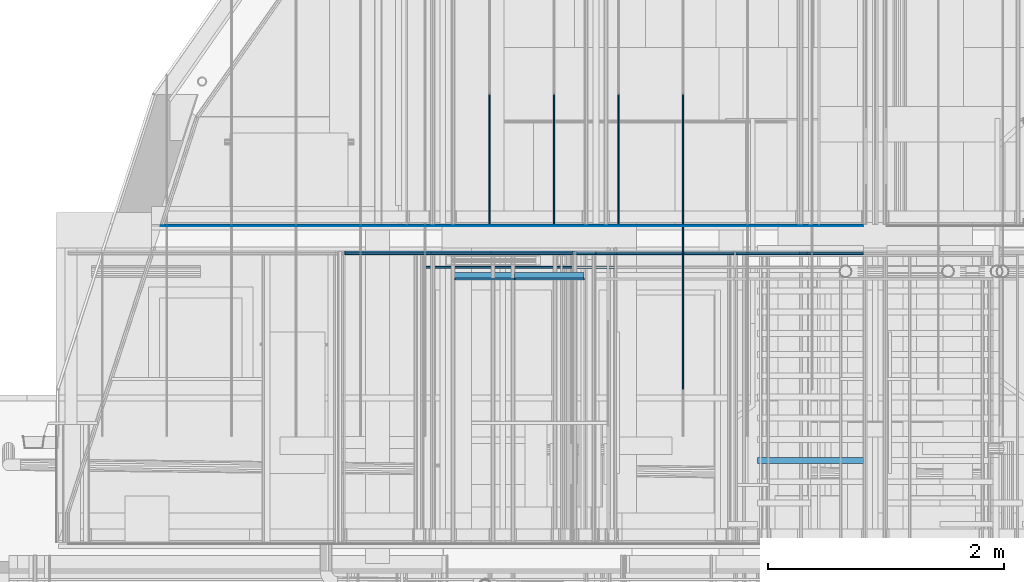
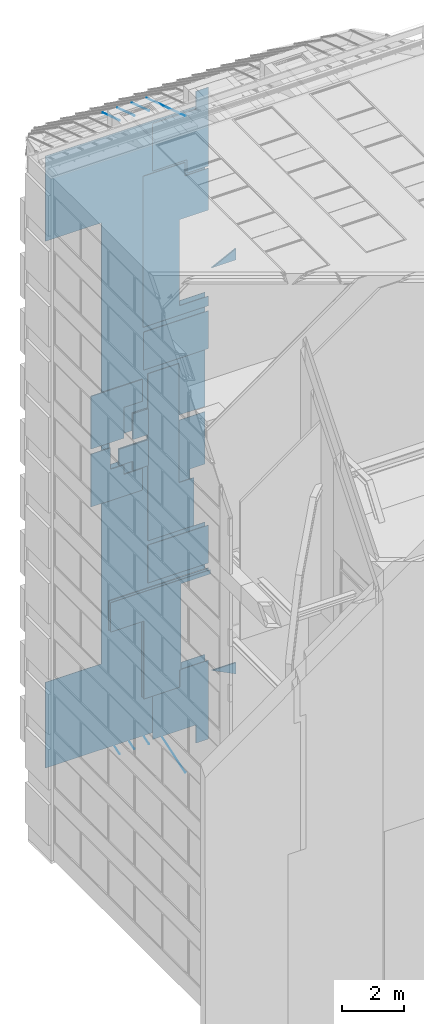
# One storey, part 267 of 583: 31 slabs.
"""IFC2X3 building model written with IfcOpenShell, lengths in metres."""

from ifc_helpers import new_model, entity, si_unit, converted_unit, derived_unit, money_unit, direction, frame, origin_with_axes, place, context, subcontext, project, spatial, faceted_brep, material, type_object, element, save


model = new_model("IFC2X3")

# Units and contexts
model_context = context("Model", 3, precision=1e-05, world=origin_with_axes(), true_north=direction((0.0, 1.0)))
body_context = subcontext(model_context, "Body", "Model", "MODEL_VIEW", scale=1.0)
ifc_project = project(units=[si_unit("LENGTHUNIT", "METRE"), si_unit("AREAUNIT", "SQUARE_METRE"), si_unit("VOLUMEUNIT", "CUBIC_METRE"), si_unit("ABSORBEDDOSEUNIT", "GRAY"), si_unit("AMOUNTOFSUBSTANCEUNIT", "MOLE"), si_unit("DOSEEQUIVALENTUNIT", "SIEVERT"), si_unit("ELECTRICCAPACITANCEUNIT", "FARAD"), si_unit("ELECTRICCHARGEUNIT", "COULOMB"), si_unit("ELECTRICCONDUCTANCEUNIT", "SIEMENS"), si_unit("ELECTRICCURRENTUNIT", "AMPERE"), si_unit("ELECTRICRESISTANCEUNIT", "OHM"), si_unit("ELECTRICVOLTAGEUNIT", "VOLT"), si_unit("ENERGYUNIT", "JOULE"), si_unit("FORCEUNIT", "NEWTON"), si_unit("FREQUENCYUNIT", "HERTZ"), si_unit("ILLUMINANCEUNIT", "LUX"), si_unit("INDUCTANCEUNIT", "HENRY"), si_unit("LUMINOUSFLUXUNIT", "LUMEN"), si_unit("LUMINOUSINTENSITYUNIT", "CANDELA"), si_unit("MAGNETICFLUXDENSITYUNIT", "TESLA"), si_unit("MAGNETICFLUXUNIT", "WEBER"), si_unit("MASSUNIT", "GRAM"), converted_unit("PLANEANGLEUNIT", "degree", entity("IfcReal", 0.0174532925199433), si_unit("PLANEANGLEUNIT", "RADIAN"), dimensions=[0, 0, 0, 0, 0, 0, 0]), si_unit("POWERUNIT", "WATT"), si_unit("PRESSUREUNIT", "PASCAL"), si_unit("RADIOACTIVITYUNIT", "BECQUEREL"), si_unit("SOLIDANGLEUNIT", "STERADIAN"), si_unit("THERMODYNAMICTEMPERATUREUNIT", "KELVIN"), si_unit("TIMEUNIT", "SECOND"), derived_unit("ACCELERATIONUNIT", [(si_unit("LENGTHUNIT", "METRE"), 1), (si_unit("TIMEUNIT", "SECOND"), -2)]), derived_unit("ANGULARVELOCITYUNIT", [(converted_unit("PLANEANGLEUNIT", "degree", entity("IfcReal", 0.0174532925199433), si_unit("PLANEANGLEUNIT", "RADIAN"), dimensions=[0, 0, 0, 0, 0, 0, 0]), 1), (si_unit("TIMEUNIT", "SECOND"), -1)]), derived_unit("CURVATUREUNIT", [(converted_unit("PLANEANGLEUNIT", "degree", entity("IfcReal", 0.0174532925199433), si_unit("PLANEANGLEUNIT", "RADIAN"), dimensions=[0, 0, 0, 0, 0, 0, 0]), 1), (si_unit("LENGTHUNIT", "METRE"), -1)]), derived_unit("DYNAMICVISCOSITYUNIT", [(si_unit("PRESSUREUNIT", "PASCAL"), 1), (si_unit("TIMEUNIT", "SECOND"), 1)]), derived_unit("HEATFLUXDENSITYUNIT", [(si_unit("POWERUNIT", "WATT"), 1), (si_unit("LENGTHUNIT", "METRE"), -2)]), derived_unit("HEATINGVALUEUNIT", [(si_unit("ENERGYUNIT", "JOULE"), 1), (si_unit("MASSUNIT", "GRAM"), -1)]), derived_unit("INTEGERCOUNTRATEUNIT", [(si_unit("TIMEUNIT", "SECOND"), -1)]), derived_unit("IONCONCENTRATIONUNIT", [(si_unit("MASSUNIT", "GRAM"), 1), (si_unit("VOLUMEUNIT", "CUBIC_METRE"), -1)]), derived_unit("ISOTHERMALMOISTURECAPACITYUNIT", [(si_unit("VOLUMEUNIT", "CUBIC_METRE"), 1), (si_unit("MASSUNIT", "GRAM"), -1)]), derived_unit("KINEMATICVISCOSITYUNIT", [(si_unit("AREAUNIT", "SQUARE_METRE"), 1), (si_unit("TIMEUNIT", "SECOND"), -1)]), derived_unit("LINEARFORCEUNIT", [(si_unit("FORCEUNIT", "NEWTON"), 1), (si_unit("LENGTHUNIT", "METRE"), -1)]), derived_unit("LINEARMOMENTUNIT", [(si_unit("FORCEUNIT", "NEWTON"), 1), (si_unit("LENGTHUNIT", "METRE"), -1)]), derived_unit("LINEARSTIFFNESSUNIT", [(si_unit("FORCEUNIT", "NEWTON"), 1), (si_unit("LENGTHUNIT", "METRE"), -1)]), derived_unit("LINEARVELOCITYUNIT", [(si_unit("LENGTHUNIT", "METRE"), 1), (si_unit("TIMEUNIT", "SECOND"), -1)]), derived_unit("LUMINOUSINTENSITYDISTRIBUTIONUNIT", [(si_unit("LUMINOUSINTENSITYUNIT", "CANDELA"), 1), (si_unit("LUMINOUSFLUXUNIT", "LUMEN"), -1)]), derived_unit("MASSDENSITYUNIT", [(si_unit("MASSUNIT", "GRAM"), 1), (si_unit("VOLUMEUNIT", "CUBIC_METRE"), -1)]), derived_unit("MASSFLOWRATEUNIT", [(si_unit("MASSUNIT", "GRAM"), 1), (si_unit("TIMEUNIT", "SECOND"), -1)]), derived_unit("MASSPERLENGTHUNIT", [(si_unit("MASSUNIT", "GRAM"), 1), (si_unit("LENGTHUNIT", "METRE"), -1)]), derived_unit("MODULUSOFELASTICITYUNIT", [(si_unit("FORCEUNIT", "NEWTON"), 1), (si_unit("AREAUNIT", "SQUARE_METRE"), -1)]), derived_unit("MODULUSOFLINEARSUBGRADEREACTIONUNIT", [(si_unit("FORCEUNIT", "NEWTON"), 1), (si_unit("LENGTHUNIT", "METRE"), -2)]), derived_unit("MODULUSOFROTATIONALSUBGRADEREACTIONUNIT", [(si_unit("FORCEUNIT", "NEWTON"), 1), (si_unit("LENGTHUNIT", "METRE"), 1)]), derived_unit("MODULUSOFSUBGRADEREACTIONUNIT", [(si_unit("FORCEUNIT", "NEWTON"), 1), (si_unit("VOLUMEUNIT", "CUBIC_METRE"), -1)]), derived_unit("MOISTUREDIFFUSIVITYUNIT", [(si_unit("VOLUMEUNIT", "CUBIC_METRE"), 1), (si_unit("TIMEUNIT", "SECOND"), -1)]), derived_unit("MOLECULARWEIGHTUNIT", [(si_unit("MASSUNIT", "GRAM"), 1), (si_unit("AMOUNTOFSUBSTANCEUNIT", "MOLE"), -1)]), derived_unit("PLANARFORCEUNIT", [(si_unit("FORCEUNIT", "NEWTON"), 1), (si_unit("LENGTHUNIT", "METRE"), -2)]), derived_unit("ROTATIONALFREQUENCYUNIT", [(si_unit("TIMEUNIT", "SECOND"), -1)]), derived_unit("ROTATIONALMASSUNIT", [(si_unit("MASSUNIT", "GRAM"), 1), (si_unit("LENGTHUNIT", "METRE"), 2)]), derived_unit("ROTATIONALSTIFFNESSUNIT", [(si_unit("FORCEUNIT", "NEWTON"), 1), (si_unit("LENGTHUNIT", "METRE"), 1), (converted_unit("PLANEANGLEUNIT", "degree", entity("IfcReal", 0.0174532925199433), si_unit("PLANEANGLEUNIT", "RADIAN"), dimensions=[0, 0, 0, 0, 0, 0, 0]), -1)]), derived_unit("SECTIONAREAINTEGRALUNIT", [(si_unit("LENGTHUNIT", "METRE"), 5)]), derived_unit("SECTIONMODULUSUNIT", [(si_unit("LENGTHUNIT", "METRE"), 3)]), derived_unit("SHEARMODULUSUNIT", [(si_unit("FORCEUNIT", "NEWTON"), 1), (si_unit("AREAUNIT", "SQUARE_METRE"), -1)]), derived_unit("SOUNDPOWERUNIT", [(si_unit("ENERGYUNIT", "JOULE"), 1), (si_unit("TIMEUNIT", "SECOND"), -1)]), derived_unit("SPECIFICHEATCAPACITYUNIT", [(si_unit("FORCEUNIT", "NEWTON"), 1), (si_unit("MASSUNIT", "GRAM"), -1), (si_unit("THERMODYNAMICTEMPERATUREUNIT", "KELVIN"), -1)]), derived_unit("TEMPERATUREGRADIENTUNIT", [(si_unit("THERMODYNAMICTEMPERATUREUNIT", "KELVIN"), 1), (si_unit("LENGTHUNIT", "METRE"), -1)]), derived_unit("THERMALADMITTANCEUNIT", [(si_unit("POWERUNIT", "WATT"), 1), (si_unit("AREAUNIT", "SQUARE_METRE"), -1), (si_unit("THERMODYNAMICTEMPERATUREUNIT", "KELVIN"), -1)]), derived_unit("THERMALCONDUCTANCEUNIT", [(si_unit("POWERUNIT", "WATT"), 1), (si_unit("LENGTHUNIT", "METRE"), -1), (si_unit("THERMODYNAMICTEMPERATUREUNIT", "KELVIN"), -1)]), derived_unit("THERMALEXPANSIONCOEFFICIENTUNIT", [(si_unit("THERMODYNAMICTEMPERATUREUNIT", "KELVIN"), -1)]), derived_unit("THERMALRESISTANCEUNIT", [(si_unit("AREAUNIT", "SQUARE_METRE"), 1), (si_unit("POWERUNIT", "WATT"), -1)]), derived_unit("THERMALTRANSMITTANCEUNIT", [(si_unit("POWERUNIT", "WATT"), 1), (si_unit("AREAUNIT", "SQUARE_METRE"), -1), (si_unit("THERMODYNAMICTEMPERATUREUNIT", "KELVIN"), -1)]), derived_unit("TORQUEUNIT", [(si_unit("FORCEUNIT", "NEWTON"), 1), (si_unit("LENGTHUNIT", "METRE"), 1)]), derived_unit("VAPORPERMEABILITYUNIT", [(si_unit("MASSUNIT", "GRAM"), 1), (si_unit("TIMEUNIT", "SECOND"), -1)]), derived_unit("VOLUMETRICFLOWRATEUNIT", [(si_unit("VOLUMEUNIT", "CUBIC_METRE"), 1), (si_unit("TIMEUNIT", "SECOND"), -1)]), derived_unit("WARPINGCONSTANTUNIT", [(si_unit("LENGTHUNIT", "METRE"), 6)]), derived_unit("WARPINGMOMENTUNIT", [(si_unit("FORCEUNIT", "NEWTON"), 1), (si_unit("LENGTHUNIT", "METRE"), 2)]), money_unit("GBP")], contexts=[model_context])

# Site, building, storey
site_placement = place(None, origin_with_axes())
site = spatial("IfcSite", under=ifc_project, at=site_placement, Name="Site", CompositionType="ELEMENT")
building_placement = place(site_placement, origin_with_axes())
building = spatial("IfcBuilding", under=site, at=building_placement, Name="Building01", CompositionType="ELEMENT")
storey_placement = place(building_placement, frame((0.0, 0.0, 20.78), z_axis=(0.0, 0.0, 1.0), x_axis=(1.0, 0.0, 0.0)))
storey = spatial("IfcBuildingStorey", under=building, at=storey_placement, Name="RL", CompositionType="ELEMENT", Elevation=20.78)

# Slabs
ifc_material_1 = material(Name="A_BSUK_CeilingSoffitFinishes_Suspended")
slab_type_1 = type_object("IfcSlabType", Name="A-FloorsSlabs A_BSUK_Slabs", PredefinedType="FLOOR")
placement = place(storey_placement, frame((0.0, 0.0, -20.78), z_axis=(0.0, 0.0, 1.0), x_axis=(1.0, 0.0, 0.0)))
element("IfcSlab", 1, at=placement, inside=storey, type_object=slab_type_1, material=ifc_material_1, Name="A-FloorsSlabs A_BSUK_Slabs", ObjectType="CompoundSlabLeaf", context=body_context, shape_type="Brep", body=[
    faceted_brep([(7.284939, 17.423, 3.715111), (7.284939, 17.438, 3.715111), (6.279939, 17.438, 3.715111), (6.279939, 17.423, 3.715111), (7.349939, 17.423, 3.715111), (7.349939, 17.438, 3.715111), (7.349939, 17.423, 0.599939), (7.349939, 17.438, 0.599939), (6.874964, 17.423, 0.599939), (6.874964, 17.438, 0.599939), (6.874964, 17.423, 1.312402), (6.874964, 17.438, 1.312402), (5.254976, 17.423, 1.312402), (5.254976, 17.438, 1.312402), (5.254976, 17.423, 3.039976), (5.254976, 17.438, 3.039976), (6.279939, 17.423, 3.039976), (6.279939, 17.438, 3.039976)], [[[0, 1, 2, 3]], [[4, 5, 1, 0]], [[6, 7, 5, 4]], [[8, 9, 7, 6]], [[10, 11, 9, 8]], [[12, 13, 11, 10]], [[14, 15, 13, 12]], [[16, 17, 15, 14]], [[3, 2, 17, 16]], [[1, 5, 7, 9, 11, 13, 15, 17, 2]], [[3, 16, 14, 12, 10, 8, 6, 4, 0]]]),
])
element("IfcSlab", 2, at=placement, inside=storey, type_object=slab_type_1, material=ifc_material_1, Name="A-FloorsSlabs A_BSUK_Slabs", ObjectType="CompoundSlabLeaf", context=body_context, shape_type="Brep", body=[
    faceted_brep([(4.859939, 17.423, 3.119976), (4.859939, 17.438, 3.119976), (6.199939, 17.438, 3.119976), (6.199939, 17.423, 3.119976), (4.859939, 17.423, 6.200098), (4.859939, 17.438, 6.200098), (3.619939, 17.423, 6.200098), (3.619939, 17.438, 6.200098), (3.619939, 17.423, 7.36), (3.619939, 17.438, 7.36), (7.349939, 17.423, 7.36), (7.349939, 17.438, 7.36), (7.349939, 17.423, 7.195111), (7.349939, 17.438, 7.195111), (6.252627, 17.423, 7.195111), (6.252627, 17.438, 7.195111), (6.252627, 17.423, 3.915111), (6.252627, 17.438, 3.915111), (6.252627, 17.423, 3.795111), (6.252627, 17.438, 3.795111), (6.199939, 17.423, 3.795111), (6.199939, 17.438, 3.795111)], [[[0, 1, 2, 3]], [[4, 5, 1, 0]], [[6, 7, 5, 4]], [[8, 9, 7, 6]], [[10, 11, 9, 8]], [[12, 13, 11, 10]], [[14, 15, 13, 12]], [[16, 17, 15, 14]], [[18, 19, 17, 16]], [[20, 21, 19, 18]], [[3, 2, 21, 20]], [[1, 5, 7, 9, 11, 13, 15, 17, 19, 21, 2]], [[3, 20, 18, 16, 14, 12, 10, 8, 6, 4, 0]]]),
])
element("IfcSlab", 3, at=placement, inside=storey, type_object=slab_type_1, material=ifc_material_1, Name="A-FloorsSlabs A_BSUK_Slabs", ObjectType="CompoundSlabLeaf", context=body_context, shape_type="Brep", body=[
    faceted_brep([(5.08, 17.423, 7.56), (5.08, 17.438, 7.56), (7.349939, 17.438, 7.56), (7.349939, 17.423, 7.56), (5.08, 17.423, 9.06), (5.08, 17.438, 9.06), (7.349939, 17.423, 9.06), (7.349939, 17.438, 9.06)], [[[0, 1, 2, 3]], [[4, 5, 1, 0]], [[6, 7, 5, 4]], [[3, 2, 7, 6]], [[1, 5, 7, 2]], [[3, 6, 4, 0]]]),
])
element("IfcSlab", 4, at=placement, inside=storey, type_object=slab_type_1, material=ifc_material_1, Name="A-FloorsSlabs A_BSUK_Slabs", ObjectType="CompoundSlabLeaf", context=body_context, shape_type="Brep", body=[
    faceted_brep([(7.349915, 17.423, 16.03844), (7.349915, 17.438, 16.03844), (7.349915, 17.438, 17.53844), (7.349915, 17.423, 17.53844), (4.917, 17.423, 16.03844), (4.917, 17.438, 16.03844), (4.917, 17.423, 17.53844), (4.917, 17.438, 17.53844)], [[[0, 1, 2, 3]], [[4, 5, 1, 0]], [[6, 7, 5, 4]], [[3, 2, 7, 6]], [[1, 5, 7, 2]], [[3, 6, 4, 0]]]),
])
element("IfcSlab", 5, at=placement, inside=storey, type_object=slab_type_1, material=ifc_material_1, Name="A-FloorsSlabs A_BSUK_Slabs", ObjectType="CompoundSlabLeaf", context=body_context, shape_type="Brep", body=[
    faceted_brep([(7.349915, 17.423, 17.73844), (7.349915, 17.438, 17.73844), (7.349915, 17.438, 18.11844), (7.349915, 17.423, 18.11844), (4.897, 17.423, 17.73844), (4.897, 17.438, 17.73844), (4.897, 17.423, 23.71), (4.897, 17.438, 23.71), (6.470085, 17.423, 23.71), (6.470085, 17.438, 23.71), (6.470085, 17.423, 23.178821), (6.470085, 17.438, 23.178821), (7.349915, 17.423, 23.178821), (7.349915, 17.438, 23.178821), (7.349915, 17.423, 21.51844), (7.349915, 17.438, 21.51844), (6.252627, 17.423, 21.51844), (6.252627, 17.438, 21.51844), (6.252627, 17.423, 18.11844), (6.252627, 17.438, 18.11844)], [[[0, 1, 2, 3]], [[4, 5, 1, 0]], [[6, 7, 5, 4]], [[8, 9, 7, 6]], [[10, 11, 9, 8]], [[12, 13, 11, 10]], [[14, 15, 13, 12]], [[16, 17, 15, 14]], [[18, 19, 17, 16]], [[3, 2, 19, 18]], [[1, 5, 7, 9, 11, 13, 15, 17, 19, 2]], [[3, 18, 16, 14, 12, 10, 8, 6, 4, 0]]]),
])
element("IfcSlab", 6, at=placement, inside=storey, type_object=slab_type_1, material=ifc_material_1, Name="A-FloorsSlabs A_BSUK_Slabs", ObjectType="CompoundSlabLeaf", context=body_context, shape_type="Brep", body=[
    faceted_brep([(7.349915, 17.423, 23.258821), (7.349915, 17.438, 23.258821), (7.349915, 17.438, 26.380061), (7.349915, 17.423, 26.380061), (6.550085, 17.423, 23.258821), (6.550085, 17.438, 23.258821), (6.550085, 17.423, 23.79), (6.550085, 17.438, 23.79), (5.254915, 17.423, 23.79), (5.254915, 17.438, 23.79), (5.254915, 17.423, 25.667598), (5.254915, 17.438, 25.667598), (6.874964, 17.423, 25.667598), (6.874964, 17.438, 25.667598), (6.874964, 17.423, 26.380061), (6.874964, 17.438, 26.380061)], [[[0, 1, 2, 3]], [[4, 5, 1, 0]], [[6, 7, 5, 4]], [[8, 9, 7, 6]], [[10, 11, 9, 8]], [[12, 13, 11, 10]], [[14, 15, 13, 12]], [[3, 2, 15, 14]], [[1, 5, 7, 9, 11, 13, 15, 2]], [[3, 14, 12, 10, 8, 6, 4, 0]]]),
])
element("IfcSlab", 7, at=placement, inside=storey, type_object=slab_type_1, material=ifc_material_1, Name="A-FloorsSlabs A_BSUK_Slabs", ObjectType="CompoundSlabLeaf", context=body_context, shape_type="Brep", body=[
    faceted_brep([(5.08, 17.423, 9.23), (5.08, 17.438, 9.23), (6.807, 17.438, 9.23), (6.807, 17.423, 9.23), (5.08, 17.423, 15.83844), (5.08, 17.438, 15.83844), (6.25, 17.423, 15.83844), (6.25, 17.438, 15.83844), (6.25, 17.423, 11.13), (6.25, 17.438, 11.13), (6.807, 17.423, 11.13), (6.807, 17.438, 11.13)], [[[0, 1, 2, 3]], [[4, 5, 1, 0]], [[6, 7, 5, 4]], [[8, 9, 7, 6]], [[10, 11, 9, 8]], [[3, 2, 11, 10]], [[1, 5, 7, 9, 11, 2]], [[3, 10, 8, 6, 4, 0]]]),
])
element("IfcSlab", 8, at=placement, inside=storey, type_object=slab_type_1, material=ifc_material_1, Name="A-FloorsSlabs A_BSUK_Slabs", ObjectType="CompoundSlabLeaf", context=body_context, shape_type="Brep", body=[
    faceted_brep([(2.949761, 17.423, 13.4), (2.949761, 17.438, 13.4), (2.949761, 17.438, 11.31), (2.949761, 17.423, 11.31), (3.68, 17.423, 13.4), (3.68, 17.438, 13.4), (3.68, 17.423, 12.55), (3.68, 17.438, 12.55), (4.189428, 17.423, 12.55), (4.189428, 17.438, 12.55), (4.189428, 17.423, 12.175), (4.189428, 17.438, 12.175), (4.88, 17.423, 12.175), (4.88, 17.438, 12.175), (4.88, 17.423, 11.31), (4.88, 17.438, 11.31)], [[[0, 1, 2, 3]], [[4, 5, 1, 0]], [[6, 7, 5, 4]], [[8, 9, 7, 6]], [[10, 11, 9, 8]], [[12, 13, 11, 10]], [[14, 15, 13, 12]], [[3, 2, 15, 14]], [[1, 5, 7, 9, 11, 13, 15, 2]], [[3, 14, 12, 10, 8, 6, 4, 0]]]),
])
element("IfcSlab", 9, at=placement, inside=storey, type_object=slab_type_1, material=ifc_material_1, Name="A-FloorsSlabs A_BSUK_Slabs", ObjectType="CompoundSlabLeaf", context=body_context, shape_type="Brep", body=[
    faceted_brep([(2.949761, 17.423, 13.6), (2.949761, 17.438, 13.6), (4.189428, 17.438, 13.6), (4.189428, 17.423, 13.6), (2.949761, 17.423, 15.69), (2.949761, 17.438, 15.69), (4.88, 17.423, 15.69), (4.88, 17.438, 15.69), (4.88, 17.423, 14.825), (4.88, 17.438, 14.825), (4.189428, 17.423, 14.825), (4.189428, 17.438, 14.825)], [[[0, 1, 2, 3]], [[4, 5, 1, 0]], [[6, 7, 5, 4]], [[8, 9, 7, 6]], [[10, 11, 9, 8]], [[3, 2, 11, 10]], [[1, 5, 7, 9, 11, 2]], [[3, 10, 8, 6, 4, 0]]]),
])
element("IfcSlab", 10, at=placement, inside=storey, type_object=slab_type_1, material=ifc_material_1, Name="A-FloorsSlabs A_BSUK_Slabs", ObjectType="CompoundSlabLeaf", context=body_context, shape_type="Brep", body=[
    faceted_brep([(4.859939, 17.438, 3.119976), (4.859939, 17.453, 3.119976), (6.199939, 17.453, 3.119976), (6.199939, 17.438, 3.119976), (4.859939, 17.438, 6.200098), (4.859939, 17.453, 6.200098), (3.619939, 17.438, 6.200098), (3.619939, 17.453, 6.200098), (3.619939, 17.438, 7.36), (3.619939, 17.453, 7.36), (7.349939, 17.438, 7.36), (7.349939, 17.453, 7.36), (7.349939, 17.438, 7.195111), (7.349939, 17.453, 7.195111), (6.252627, 17.438, 7.195111), (6.252627, 17.453, 7.195111), (6.252627, 17.438, 3.915111), (6.252627, 17.453, 3.915111), (6.252627, 17.438, 3.795111), (6.252627, 17.453, 3.795111), (6.199939, 17.438, 3.795111), (6.199939, 17.453, 3.795111)], [[[0, 1, 2, 3]], [[4, 5, 1, 0]], [[6, 7, 5, 4]], [[8, 9, 7, 6]], [[10, 11, 9, 8]], [[12, 13, 11, 10]], [[14, 15, 13, 12]], [[16, 17, 15, 14]], [[18, 19, 17, 16]], [[20, 21, 19, 18]], [[3, 2, 21, 20]], [[1, 5, 7, 9, 11, 13, 15, 17, 19, 21, 2]], [[3, 20, 18, 16, 14, 12, 10, 8, 6, 4, 0]]]),
])
element("IfcSlab", 11, at=placement, inside=storey, type_object=slab_type_1, material=ifc_material_1, Name="A-FloorsSlabs A_BSUK_Slabs", ObjectType="CompoundSlabLeaf", context=body_context, shape_type="Brep", body=[
    faceted_brep([(2.949761, 17.438, 13.4), (2.949761, 17.453, 13.4), (2.949761, 17.453, 11.31), (2.949761, 17.438, 11.31), (3.68, 17.438, 13.4), (3.68, 17.453, 13.4), (3.68, 17.438, 12.55), (3.68, 17.453, 12.55), (4.189428, 17.438, 12.55), (4.189428, 17.453, 12.55), (4.189428, 17.438, 12.175), (4.189428, 17.453, 12.175), (4.88, 17.438, 12.175), (4.88, 17.453, 12.175), (4.88, 17.438, 11.31), (4.88, 17.453, 11.31)], [[[0, 1, 2, 3]], [[4, 5, 1, 0]], [[6, 7, 5, 4]], [[8, 9, 7, 6]], [[10, 11, 9, 8]], [[12, 13, 11, 10]], [[14, 15, 13, 12]], [[3, 2, 15, 14]], [[1, 5, 7, 9, 11, 13, 15, 2]], [[3, 14, 12, 10, 8, 6, 4, 0]]]),
])
element("IfcSlab", 12, at=placement, inside=storey, type_object=slab_type_1, material=ifc_material_1, Name="A-FloorsSlabs A_BSUK_Slabs", ObjectType="CompoundSlabLeaf", context=body_context, shape_type="Brep", body=[
    faceted_brep([(2.949761, 17.438, 13.6), (2.949761, 17.453, 13.6), (4.189428, 17.453, 13.6), (4.189428, 17.438, 13.6), (2.949761, 17.438, 15.69), (2.949761, 17.453, 15.69), (4.88, 17.438, 15.69), (4.88, 17.453, 15.69), (4.88, 17.438, 14.825), (4.88, 17.453, 14.825), (4.189428, 17.438, 14.825), (4.189428, 17.453, 14.825)], [[[0, 1, 2, 3]], [[4, 5, 1, 0]], [[6, 7, 5, 4]], [[8, 9, 7, 6]], [[10, 11, 9, 8]], [[3, 2, 11, 10]], [[1, 5, 7, 9, 11, 2]], [[3, 10, 8, 6, 4, 0]]]),
])
ifc_material_2 = material(Name="A_BSUK_Slabs")
element("IfcSlab", 13, at=placement, inside=storey, type_object=slab_type_1, material=ifc_material_2, Name="A-FloorsSlabs A_BSUK_Slabs", ObjectType="CompoundSlabLeaf", context=body_context, shape_type="Brep", body=[
    faceted_brep([(7.349939, 15.65, 4.695111), (7.349939, 15.7, 4.695111), (6.449939, 15.7, 4.695111), (6.449939, 15.65, 4.695111), (7.349939, 15.65, 4.245111), (7.349939, 15.7, 4.245111)], [[[0, 1, 2, 3]], [[4, 5, 1, 0]], [[3, 2, 5, 4]], [[1, 5, 2]], [[3, 4, 0]]]),
])
element("IfcSlab", 14, at=placement, inside=storey, type_object=slab_type_1, material=ifc_material_2, Name="A-FloorsSlabs A_BSUK_Slabs", ObjectType="CompoundSlabLeaf", context=body_context, shape_type="Brep", body=[
    faceted_brep([(6.449939, 15.65, 20.61844), (6.449939, 15.7, 20.61844), (7.349939, 15.7, 20.61844), (7.349939, 15.65, 20.61844), (7.349939, 15.65, 21.06844), (7.349939, 15.7, 21.06844)], [[[0, 1, 2, 3]], [[4, 5, 1, 0]], [[3, 2, 5, 4]], [[1, 5, 2]], [[3, 4, 0]]]),
])
element("IfcSlab", 15, at=placement, inside=storey, type_object=slab_type_1, material=ifc_material_1, Name="A-FloorsSlabs A_BSUK_Slabs", ObjectType="CompoundSlabLeaf", context=body_context, shape_type="Brep", body=[
    faceted_brep([(3.88, 17.208, 13.4), (3.88, 17.223, 13.4), (3.88, 17.223, 12.75), (3.88, 17.208, 12.75), (4.98, 17.208, 13.4), (4.98, 17.223, 13.4), (4.98, 17.208, 12.375), (4.98, 17.223, 12.375), (4.389428, 17.208, 12.375), (4.389428, 17.223, 12.375), (4.389428, 17.208, 12.75), (4.389428, 17.223, 12.75)], [[[0, 1, 2, 3]], [[4, 5, 1, 0]], [[6, 7, 5, 4]], [[8, 9, 7, 6]], [[10, 11, 9, 8]], [[3, 2, 11, 10]], [[1, 5, 7, 9, 11, 2]], [[3, 10, 8, 6, 4, 0]]]),
])
element("IfcSlab", 16, at=placement, inside=storey, type_object=slab_type_1, material=ifc_material_1, Name="A-FloorsSlabs A_BSUK_Slabs", ObjectType="CompoundSlabLeaf", context=body_context, shape_type="Brep", body=[
    faceted_brep([(4.389428, 17.208, 14.625), (4.389428, 17.223, 14.625), (4.389428, 17.223, 13.975), (4.389428, 17.208, 13.975), (4.98, 17.208, 14.625), (4.98, 17.223, 14.625), (4.98, 17.208, 13.6), (4.98, 17.223, 13.6), (4.389428, 17.208, 13.6), (4.389428, 17.223, 13.6)], [[[0, 1, 2, 3]], [[4, 5, 1, 0]], [[6, 7, 5, 4]], [[8, 9, 7, 6]], [[3, 2, 9, 8]], [[1, 5, 7, 9, 2]], [[3, 8, 6, 4, 0]]]),
])
element("IfcSlab", 17, at=placement, inside=storey, type_object=slab_type_1, material=ifc_material_1, Name="A-FloorsSlabs A_BSUK_Slabs", ObjectType="CompoundSlabLeaf", context=body_context, shape_type="Brep", body=[
    faceted_brep([(4.859939, 17.308, 3.119976), (4.859939, 17.323, 3.119976), (6.199939, 17.323, 3.119976), (6.199939, 17.308, 3.119976), (4.859939, 17.308, 6.200098), (4.859939, 17.323, 6.200098), (3.619939, 17.308, 6.200098), (3.619939, 17.323, 6.200098), (3.619939, 17.308, 7.36), (3.619939, 17.323, 7.36), (7.349939, 17.308, 7.36), (7.349939, 17.323, 7.36), (7.349939, 17.308, 7.195111), (7.349939, 17.323, 7.195111), (6.252627, 17.308, 7.195111), (6.252627, 17.323, 7.195111), (6.252627, 17.308, 3.915111), (6.252627, 17.323, 3.915111), (6.252627, 17.308, 3.795111), (6.252627, 17.323, 3.795111), (6.199939, 17.308, 3.795111), (6.199939, 17.323, 3.795111)], [[[0, 1, 2, 3]], [[4, 5, 1, 0]], [[6, 7, 5, 4]], [[8, 9, 7, 6]], [[10, 11, 9, 8]], [[12, 13, 11, 10]], [[14, 15, 13, 12]], [[16, 17, 15, 14]], [[18, 19, 17, 16]], [[20, 21, 19, 18]], [[3, 2, 21, 20]], [[1, 5, 7, 9, 11, 13, 15, 17, 19, 21, 2]], [[3, 20, 18, 16, 14, 12, 10, 8, 6, 4, 0]]]),
])
ifc_material_3 = material(Name="A_BSUK_ExpandedPolystyreneBoards")
element("IfcSlab", 18, at=placement, inside=storey, type_object=slab_type_1, material=ifc_material_3, Name="A-FloorsSlabs A_BSUK_Slabs", ObjectType="CompoundSlabLeaf", context=body_context, shape_type="Brep", body=[
    faceted_brep([(7.349939, 17.665, 13.6), (7.349939, 17.668, 13.6), (7.349939, 17.668, 18.11844), (7.349939, 17.665, 18.11844), (3.479939, 17.665, 13.6), (3.479939, 17.668, 13.6), (3.479939, 17.665, 22.219976), (3.479939, 17.668, 22.219976), (1.385265, 17.665, 22.219976), (1.385265, 17.668, 22.219976), (1.385265, 17.665, 25.594737), (1.385265, 17.668, 25.594737), (7.349915, 17.665, 25.594737), (7.349915, 17.668, 25.594737), (7.349915, 17.665, 21.518386), (7.349915, 17.668, 21.518386), (6.252627, 17.665, 21.518386), (6.252627, 17.668, 21.518386), (6.252627, 17.665, 18.11844), (6.252627, 17.668, 18.11844)], [[[0, 1, 2, 3]], [[4, 5, 1, 0]], [[6, 7, 5, 4]], [[8, 9, 7, 6]], [[10, 11, 9, 8]], [[12, 13, 11, 10]], [[14, 15, 13, 12]], [[16, 17, 15, 14]], [[18, 19, 17, 16]], [[3, 2, 19, 18]], [[1, 5, 7, 9, 11, 13, 15, 17, 19, 2]], [[3, 18, 16, 14, 12, 10, 8, 6, 4, 0]]]),
])
element("IfcSlab", 19, at=placement, inside=storey, type_object=slab_type_1, material=ifc_material_3, Name="A-FloorsSlabs A_BSUK_Slabs", ObjectType="CompoundSlabLeaf", context=body_context, shape_type="Brep", body=[
    faceted_brep([(7.349939, 17.665, 11.323), (7.349939, 17.668, 11.323), (7.349939, 17.668, 13.4), (7.349939, 17.665, 13.4), (6.789769, 17.665, 11.323), (6.789769, 17.668, 11.323), (6.789769, 17.665, 9.03), (6.789769, 17.668, 9.03), (7.35, 17.665, 9.03), (7.35, 17.668, 9.03), (7.35, 17.665, 7.195077), (7.35, 17.668, 7.195077), (6.252627, 17.665, 7.195077), (6.252627, 17.668, 7.195077), (6.252627, 17.665, 3.795111), (6.252627, 17.668, 3.795111), (7.349939, 17.665, 3.795111), (7.349939, 17.668, 3.795111), (7.349939, 17.665, 1.385263), (7.349939, 17.668, 1.385263), (1.385265, 17.665, 1.385263), (1.385265, 17.668, 1.385263), (1.385265, 17.665, 4.780024), (1.385265, 17.668, 4.780024), (3.479939, 17.665, 4.780024), (3.479939, 17.668, 4.780024), (3.479939, 17.665, 13.4), (3.479939, 17.668, 13.4), (3.789368, 17.665, 13.4), (3.789368, 17.668, 13.4), (3.789368, 17.665, 12.55), (3.789368, 17.668, 12.55), (5.18, 17.665, 12.55), (5.18, 17.668, 12.55), (5.18, 17.665, 13.4), (5.18, 17.668, 13.4)], [[[0, 1, 2, 3]], [[4, 5, 1, 0]], [[6, 7, 5, 4]], [[8, 9, 7, 6]], [[10, 11, 9, 8]], [[12, 13, 11, 10]], [[14, 15, 13, 12]], [[16, 17, 15, 14]], [[18, 19, 17, 16]], [[20, 21, 19, 18]], [[22, 23, 21, 20]], [[24, 25, 23, 22]], [[26, 27, 25, 24]], [[28, 29, 27, 26]], [[30, 31, 29, 28]], [[32, 33, 31, 30]], [[34, 35, 33, 32]], [[3, 2, 35, 34]], [[1, 5, 7, 9, 11, 13, 15, 17, 19, 21, 23, 25, 27, 29, 31, 33, 35, 2]], [[3, 34, 32, 30, 28, 26, 24, 22, 20, 18, 16, 14, 12, 10, 8, 6, 4, 0]]]),
])
ifc_material_4 = material(Name="A_BSUK_Parquet_Floor")
element("IfcSlab", 20, at=placement, inside=storey, type_object=slab_type_1, material=ifc_material_4, Name="A-FloorsSlabs A_BSUK_Slabs", ObjectType="CompoundSlabLeaf", context=body_context, shape_type="Brep", body=[
    faceted_brep([(7.349939, 17.668, 13.6), (7.349939, 17.68, 13.6), (7.349939, 17.68, 18.11844), (7.349939, 17.668, 18.11844), (3.479939, 17.668, 13.6), (3.479939, 17.68, 13.6), (3.479939, 17.668, 22.219976), (3.479939, 17.68, 22.219976), (1.385265, 17.668, 22.219976), (1.385265, 17.68, 22.219976), (1.385265, 17.668, 25.594737), (1.385265, 17.68, 25.594737), (7.349915, 17.668, 25.594737), (7.349915, 17.68, 25.594737), (7.349915, 17.668, 21.518386), (7.349915, 17.68, 21.518386), (6.252627, 17.668, 21.518386), (6.252627, 17.68, 21.518386), (6.252627, 17.668, 18.11844), (6.252627, 17.68, 18.11844)], [[[0, 1, 2, 3]], [[4, 5, 1, 0]], [[6, 7, 5, 4]], [[8, 9, 7, 6]], [[10, 11, 9, 8]], [[12, 13, 11, 10]], [[14, 15, 13, 12]], [[16, 17, 15, 14]], [[18, 19, 17, 16]], [[3, 2, 19, 18]], [[1, 5, 7, 9, 11, 13, 15, 17, 19, 2]], [[3, 18, 16, 14, 12, 10, 8, 6, 4, 0]]]),
])
element("IfcSlab", 21, at=placement, inside=storey, type_object=slab_type_1, material=ifc_material_4, Name="A-FloorsSlabs A_BSUK_Slabs", ObjectType="CompoundSlabLeaf", context=body_context, shape_type="Brep", body=[
    faceted_brep([(7.349939, 17.668, 11.323), (7.349939, 17.68, 11.323), (7.349939, 17.68, 13.4), (7.349939, 17.668, 13.4), (6.789769, 17.668, 11.323), (6.789769, 17.68, 11.323), (6.789769, 17.668, 9.03), (6.789769, 17.68, 9.03), (7.35, 17.668, 9.03), (7.35, 17.68, 9.03), (7.35, 17.668, 7.195077), (7.35, 17.68, 7.195077), (6.252627, 17.668, 7.195077), (6.252627, 17.68, 7.195077), (6.252627, 17.668, 3.795111), (6.252627, 17.68, 3.795111), (7.349939, 17.668, 3.795111), (7.349939, 17.68, 3.795111), (7.349939, 17.668, 1.385263), (7.349939, 17.68, 1.385263), (1.385265, 17.668, 1.385263), (1.385265, 17.68, 1.385263), (1.385265, 17.668, 4.780024), (1.385265, 17.68, 4.780024), (3.479939, 17.668, 4.780024), (3.479939, 17.68, 4.780024), (3.479939, 17.668, 13.4), (3.479939, 17.68, 13.4), (3.789368, 17.668, 13.4), (3.789368, 17.68, 13.4), (3.789368, 17.668, 12.55), (3.789368, 17.68, 12.55), (5.18, 17.668, 12.55), (5.18, 17.68, 12.55), (5.18, 17.668, 13.4), (5.18, 17.68, 13.4)], [[[0, 1, 2, 3]], [[4, 5, 1, 0]], [[6, 7, 5, 4]], [[8, 9, 7, 6]], [[10, 11, 9, 8]], [[12, 13, 11, 10]], [[14, 15, 13, 12]], [[16, 17, 15, 14]], [[18, 19, 17, 16]], [[20, 21, 19, 18]], [[22, 23, 21, 20]], [[24, 25, 23, 22]], [[26, 27, 25, 24]], [[28, 29, 27, 26]], [[30, 31, 29, 28]], [[32, 33, 31, 30]], [[34, 35, 33, 32]], [[3, 2, 35, 34]], [[1, 5, 7, 9, 11, 13, 15, 17, 19, 21, 23, 25, 27, 29, 31, 33, 35, 2]], [[3, 34, 32, 30, 28, 26, 24, 22, 20, 18, 16, 14, 12, 10, 8, 6, 4, 0]]]),
])
ifc_material_5 = material(Name="A_BSUK_Roofs")
slab_22_placement = place(storey_placement, frame((5.813975, 16.274427, 5.68), z_axis=(0.0, 1.0, 0.0), x_axis=(1.0, 0.0, 0.0)))
element("IfcSlab", 22, at=slab_22_placement, inside=storey, type_object=slab_type_1, material=ifc_material_5, Name="A-FloorsSlabs A_BSUK_Slabs", ObjectType="A-FloorsSlabs A_BSUK_Slabs", context=body_context, shape_type="Brep", body=[
    faceted_brep([(0.0, 0.0, 0.0), (0.0, -0.019021, 0.00618), (0.0, 0.795239, 2.512214), (0.0, 0.81426, 2.506034), (0.01, 0.0, 0.0), (0.01, -0.019021, 0.00618), (0.01, 0.81426, 2.506034), (0.01, 0.795239, 2.512214)], [[[0, 1, 2, 3]], [[4, 5, 1, 0]], [[6, 7, 5, 4]], [[3, 2, 7, 6]], [[1, 5, 7, 2]], [[3, 6, 4, 0]]]),
])
for number, where, z_axis, x_axis, name in (
    (23, (5.266475, 16.274427, 5.68), (0.0, 1.0, 0.0), (1.0, 0.0, 0.0), "A-FloorsSlabs A_BSUK_Slabs"),
    (24, (4.718975, 16.274427, 5.68), (0.0, 1.0, 0.0), (1.0, 0.0, 0.0), "A-FloorsSlabs A_BSUK_Slabs"),
    (25, (4.171475, 16.274427, 5.68), (0.0, 1.0, 0.0), (1.0, 0.0, 0.0), "A-FloorsSlabs A_BSUK_Slabs"),
):
    element("IfcSlab", number, at=place(storey_placement, frame(where, z_axis=z_axis, x_axis=x_axis)), inside=storey, type_object=slab_type_1, material=ifc_material_5, Name=name, ObjectType="A-FloorsSlabs A_BSUK_Slabs", context=body_context, shape_type="Brep", body=[
        faceted_brep([(0.0, 0.456727, 1.405662), (0.0, 0.437706, 1.411842), (0.0, 0.795239, 2.512214), (0.0, 0.81426, 2.506034), (0.01, 0.456727, 1.405662), (0.01, 0.437706, 1.411842), (0.01, 0.81426, 2.506034), (0.01, 0.795239, 2.512214)], [[[0, 1, 2, 3]], [[4, 5, 1, 0]], [[6, 7, 5, 4]], [[3, 2, 7, 6]], [[1, 5, 7, 2]], [[3, 6, 4, 0]]]),
    ])
slab_23_placement = place(storey_placement, frame((5.813975, 16.274427, -20.26), z_axis=(0.0, 1.0, 0.0), x_axis=(-1.0, 0.0, 0.0)))
element("IfcSlab", 26, at=slab_23_placement, inside=storey, type_object=slab_type_1, material=ifc_material_5, Name="A-FloorsSlabs A_BSUK_Slabs", ObjectType="A-FloorsSlabs A_BSUK_Slabs", context=body_context, shape_type="Brep", body=[
    faceted_brep([(0.0, 0.81426, 2.506034), (0.0, 0.795239, 2.512214), (0.0, -0.019021, 0.00618), (0.0, 0.0, 0.0), (-0.01, -0.019021, 0.00618), (-0.01, 0.0, 0.0), (-0.01, 0.795239, 2.512214), (-0.01, 0.81426, 2.506034)], [[[0, 1, 2, 3]], [[3, 2, 4, 5]], [[5, 4, 6, 7]], [[7, 6, 1, 0]], [[1, 6, 4, 2]], [[3, 5, 7, 0]]]),
])
for number, where, z_axis, x_axis, name in (
    (27, (5.266475, 16.274427, -20.26), (0.0, 1.0, 0.0), (-1.0, 0.0, 0.0), "A-FloorsSlabs A_BSUK_Slabs"),
    (28, (4.718975, 16.274427, -20.26), (0.0, 1.0, 0.0), (-1.0, 0.0, 0.0), "A-FloorsSlabs A_BSUK_Slabs"),
    (29, (4.171475, 16.274427, -20.26), (0.0, 1.0, 0.0), (-1.0, 0.0, 0.0), "A-FloorsSlabs A_BSUK_Slabs"),
):
    element("IfcSlab", number, at=place(storey_placement, frame(where, z_axis=z_axis, x_axis=x_axis)), inside=storey, type_object=slab_type_1, material=ifc_material_5, Name=name, ObjectType="A-FloorsSlabs A_BSUK_Slabs", context=body_context, shape_type="Brep", body=[
        faceted_brep([(0.0, 0.81426, 2.506034), (0.0, 0.795239, 2.512214), (0.0, 0.437706, 1.411842), (0.0, 0.456727, 1.405662), (-0.01, 0.437706, 1.411842), (-0.01, 0.456727, 1.405662), (-0.01, 0.795239, 2.512214), (-0.01, 0.81426, 2.506034)], [[[0, 1, 2, 3]], [[3, 2, 4, 5]], [[5, 4, 6, 7]], [[7, 6, 1, 0]], [[1, 6, 4, 2]], [[3, 5, 7, 0]]]),
    ])
slab_type_2 = type_object("IfcSlabType", Name="A-FloorsSlabs A_BSUK_ExpandedPolystyreneBoards", PredefinedType="FLOOR")
element("IfcSlab", 30, at=placement, inside=storey, type_object=slab_type_2, material=ifc_material_3, Name="A-FloorsSlabs A_BSUK_ExpandedPolystyreneBoards", ObjectType="CompoundSlabLeaf", context=body_context, shape_type="Brep", body=[
    faceted_brep([(3.88, 17.223, 13.4), (3.88, 17.273, 13.4), (3.88, 17.273, 12.75), (3.88, 17.223, 12.75), (4.98, 17.223, 13.4), (4.98, 17.273, 13.4), (4.98, 17.223, 12.375), (4.98, 17.273, 12.375), (4.389428, 17.223, 12.375), (4.389428, 17.273, 12.375), (4.389428, 17.223, 12.75), (4.389428, 17.273, 12.75)], [[[0, 1, 2, 3]], [[4, 5, 1, 0]], [[6, 7, 5, 4]], [[8, 9, 7, 6]], [[10, 11, 9, 8]], [[3, 2, 11, 10]], [[1, 5, 7, 9, 11, 2]], [[3, 10, 8, 6, 4, 0]]]),
])
element("IfcSlab", 31, at=placement, inside=storey, type_object=slab_type_2, material=ifc_material_3, Name="A-FloorsSlabs A_BSUK_ExpandedPolystyreneBoards", ObjectType="CompoundSlabLeaf", context=body_context, shape_type="Brep", body=[
    faceted_brep([(4.389428, 17.223, 14.625), (4.389428, 17.273, 14.625), (4.389428, 17.273, 13.975), (4.389428, 17.223, 13.975), (4.98, 17.223, 14.625), (4.98, 17.273, 14.625), (4.98, 17.223, 13.6), (4.98, 17.273, 13.6), (4.389428, 17.223, 13.6), (4.389428, 17.273, 13.6)], [[[0, 1, 2, 3]], [[4, 5, 1, 0]], [[6, 7, 5, 4]], [[8, 9, 7, 6]], [[3, 2, 9, 8]], [[1, 5, 7, 9, 2]], [[3, 8, 6, 4, 0]]]),
])

save(model, "model.ifc")
